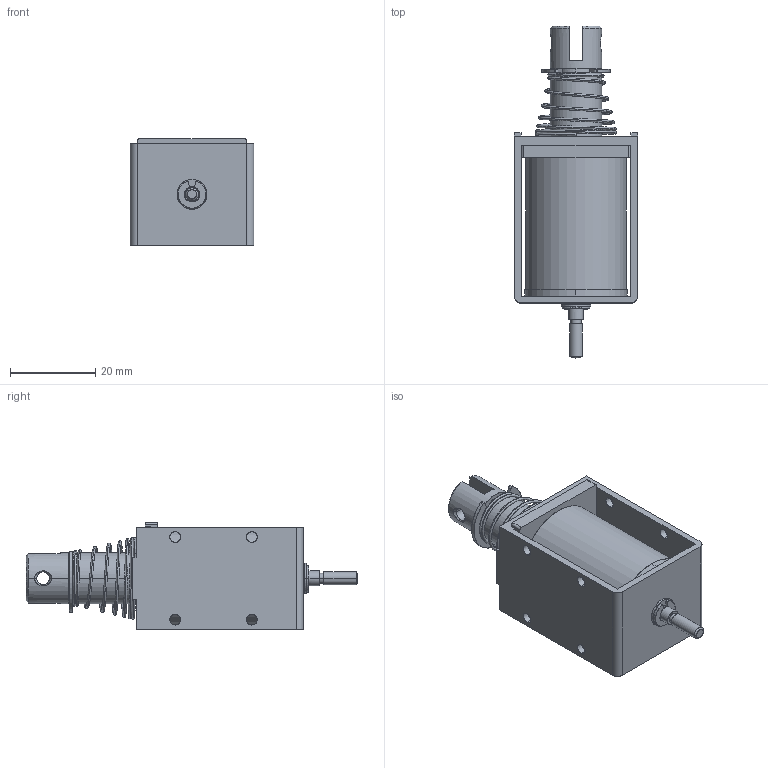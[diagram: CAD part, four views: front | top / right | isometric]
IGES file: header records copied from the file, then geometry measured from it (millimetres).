
Start section: SolidWorks IGES file using analytic representation for surfaces
Global section: file name: L:\カタログ\web用3Dデータ\CBS1240\3D_CBS1240\w_cbs1240.IGS; native system: SolidWorks 2014; preprocessor: SolidWorks 2014; author: jiba; date: 140725.113528; units: millimetre
Bounding box: 29 x 77.9 x 25.1 mm (x, y, z)
Surface area: 18074 mm2 (no closed solid volume)
Topology: 0 solids, 0 shells, 181 faces, 3121 edges, 3121 vertices
Faces by surface type: revolution 109, bspline 72
